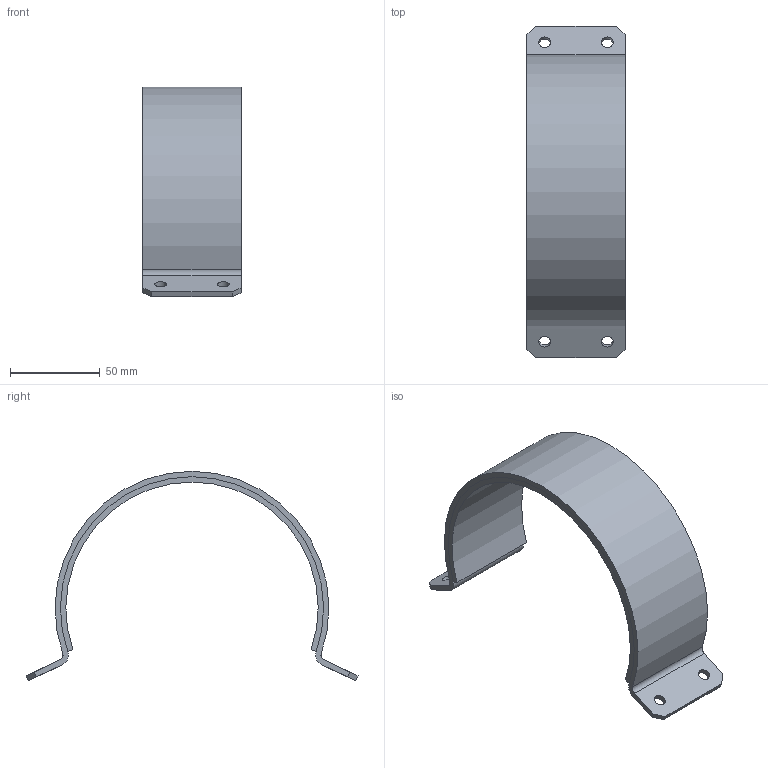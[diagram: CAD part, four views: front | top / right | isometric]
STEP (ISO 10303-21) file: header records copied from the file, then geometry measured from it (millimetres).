
FILE_DESCRIPTION(/* description */ ('COLLIER DE FIXATION','CAx-IF Rec.Pracs.---Representation and Presentation of Product Manufacturing Information (PMI)---4.0---2014-10-13'),/* implementation_level */ '2;1');
FILE_NAME(/* name */ 'vv110304-D.stp',/* time_stamp */ '2025-10-14T13:17:25+02:00',/* author */ ('EFR'),/* organization */ (''),/* preprocessor_version */ 'ST-DEVELOPER v20',/* originating_system */ 'Autodesk Inventor 2025',/* authorisation */ '');
FILE_SCHEMA (('AP242_MANAGED_MODEL_BASED_3D_ENGINEERING_MIM_LF { 1 0 10303 442 1 1 4 }'));
Length unit declared in the file: millimetre
Products named in the file (1): VICTOR.V.11.03.04
Bounding box: 55 x 185.49 x 116.95 mm (x, y, z)
Volume: 101008.9 mm3; surface area: 71902.2 mm2
Topology: 2 solids, 2 shells, 28 faces, 72 edges, 48 vertices
Faces by surface type: plane 16, cylinder 12
Full cylindrical faces by diameter (mm): 6.5 x4
Entity records: 1106 total; most frequent: CARTESIAN_POINT 197, DIRECTION 184, ORIENTED_EDGE 144, EDGE_CURVE 72, AXIS2_PLACEMENT_3D 68, LINE 48, VECTOR 48, VERTEX_POINT 48
